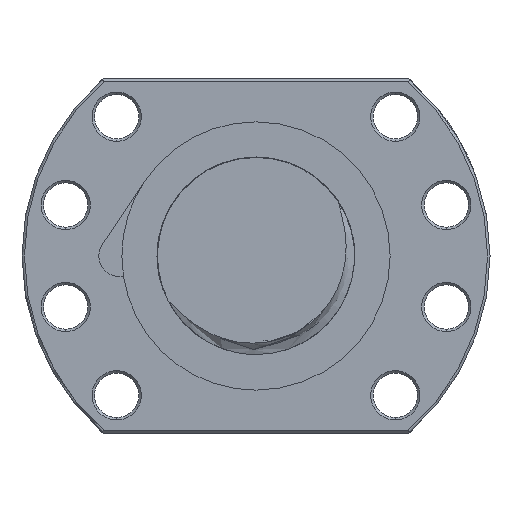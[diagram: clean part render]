
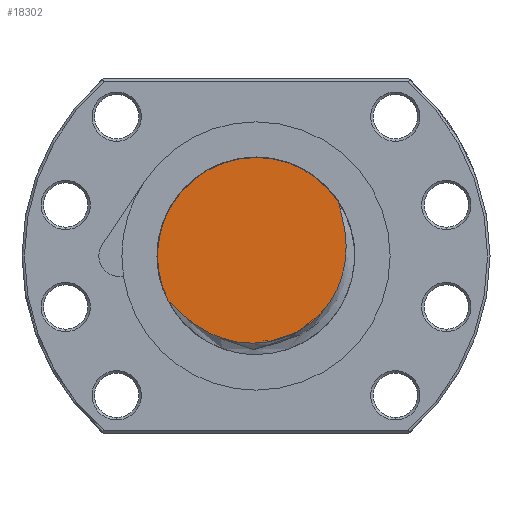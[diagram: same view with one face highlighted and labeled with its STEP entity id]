
A CAD part, left-side view. The second image highlights one B-rep face of the part: STEP entity #18302.
In plain terms, the highlighted planar face has unit normal (-1, 0, 0).
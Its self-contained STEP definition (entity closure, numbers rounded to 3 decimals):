
#1028 = CARTESIAN_POINT ( 'NONE',  ( -148., -16.713, 10.986 ) ) ;
#1029 = DIRECTION ( 'NONE',  ( 0., 1., 0. ) ) ;
#1030 = DIRECTION ( 'NONE',  ( 1., 0., 0. ) ) ;
#1031 = AXIS2_PLACEMENT_3D ( 'NONE', #1037, #1030, #1029 ) ;
#1032 = CIRCLE ( 'NONE', #1031, 20. ) ;
#1037 = CARTESIAN_POINT ( 'NONE',  ( -148., 0., 0. ) ) ;
#2822 = CARTESIAN_POINT ( 'NONE',  ( -148., 0., 20. ) ) ;
#2823 = DIRECTION ( 'NONE',  ( 0., 1., 0. ) ) ;
#2824 = DIRECTION ( 'NONE',  ( 1., 0., 0. ) ) ;
#2825 = CARTESIAN_POINT ( 'NONE',  ( -148., 0., 0. ) ) ;
#2826 = AXIS2_PLACEMENT_3D ( 'NONE', #2825, #2824, #2823 ) ;
#2827 = CIRCLE ( 'NONE', #2826, 20. ) ;
#2828 = CARTESIAN_POINT ( 'NONE',  ( -148., 17.872, -8.977 ) ) ;
#17496 = VERTEX_POINT ( 'NONE', #2828 ) ;
#17498 = EDGE_CURVE ( 'NONE', #17496, #17499, #2827, .T. ) ;
#17499 = VERTEX_POINT ( 'NONE', #2822 ) ;
#18302 = ADVANCED_FACE ( 'NONE', ( #23934 ), #23932, .F. ) ;
#18303 = EDGE_LOOP ( 'NONE', ( #18304, #18305, #18307 ) ) ;
#18304 = ORIENTED_EDGE ( 'NONE', *, *, #17498, .F. ) ;
#18305 = ORIENTED_EDGE ( 'NONE', *, *, #18306, .T. ) ;
#18306 = EDGE_CURVE ( 'NONE', #17496, #18350, #23922, .T. ) ;
#18307 = ORIENTED_EDGE ( 'NONE', *, *, #18349, .F. ) ;
#18349 = EDGE_CURVE ( 'NONE', #17499, #18350, #1032, .T. ) ;
#18350 = VERTEX_POINT ( 'NONE', #1028 ) ;
#23853 = CARTESIAN_POINT ( 'NONE',  ( -148., -16.713, 10.986 ) ) ;
#23854 = CARTESIAN_POINT ( 'NONE',  ( -148., -16.769, 10.679 ) ) ;
#23855 = CARTESIAN_POINT ( 'NONE',  ( -148., -16.845, 10.377 ) ) ;
#23856 = CARTESIAN_POINT ( 'NONE',  ( -148., -17.003, 9.774 ) ) ;
#23857 = CARTESIAN_POINT ( 'NONE',  ( -148., -17.085, 9.473 ) ) ;
#23858 = CARTESIAN_POINT ( 'NONE',  ( -148., -17.328, 8.57 ) ) ;
#23859 = CARTESIAN_POINT ( 'NONE',  ( -148., -17.485, 7.967 ) ) ;
#23860 = CARTESIAN_POINT ( 'NONE',  ( -148., -17.902, 6.148 ) ) ;
#23861 = CARTESIAN_POINT ( 'NONE',  ( -148., -18.11, 4.921 ) ) ;
#23862 = CARTESIAN_POINT ( 'NONE',  ( -148., -18.324, 2.434 ) ) ;
#23863 = CARTESIAN_POINT ( 'NONE',  ( -148., -18.329, 1.197 ) ) ;
#23864 = CARTESIAN_POINT ( 'NONE',  ( -148., -18.171, -0.649 ) ) ;
#23865 = CARTESIAN_POINT ( 'NONE',  ( -148., -18.09, -1.263 ) ) ;
#23866 = CARTESIAN_POINT ( 'NONE',  ( -148., -17.872, -2.486 ) ) ;
#23878 = CARTESIAN_POINT ( 'NONE',  ( -148., -17.733, -3.098 ) ) ;
#23879 = CARTESIAN_POINT ( 'NONE',  ( -148., -17.238, -4.894 ) ) ;
#23880 = CARTESIAN_POINT ( 'NONE',  ( -148., -16.802, -6.049 ) ) ;
#23881 = CARTESIAN_POINT ( 'NONE',  ( -148., -15.981, -7.714 ) ) ;
#23882 = CARTESIAN_POINT ( 'NONE',  ( -148., -15.678, -8.258 ) ) ;
#23883 = CARTESIAN_POINT ( 'NONE',  ( -148., -15.018, -9.319 ) ) ;
#23884 = CARTESIAN_POINT ( 'NONE',  ( -148., -14.665, -9.83 ) ) ;
#23885 = CARTESIAN_POINT ( 'NONE',  ( -148., -13.536, -11.301 ) ) ;
#23886 = CARTESIAN_POINT ( 'NONE',  ( -148., -12.694, -12.205 ) ) ;
#23887 = CARTESIAN_POINT ( 'NONE',  ( -148., -11.291, -13.439 ) ) ;
#23888 = CARTESIAN_POINT ( 'NONE',  ( -148., -10.8, -13.829 ) ) ;
#23889 = CARTESIAN_POINT ( 'NONE',  ( -148., -9.792, -14.55 ) ) ;
#23890 = CARTESIAN_POINT ( 'NONE',  ( -148., -9.272, -14.883 ) ) ;
#23891 = CARTESIAN_POINT ( 'NONE',  ( -148., -8.202, -15.497 ) ) ;
#23892 = CARTESIAN_POINT ( 'NONE',  ( -148., -7.653, -15.778 ) ) ;
#23893 = CARTESIAN_POINT ( 'NONE',  ( -148., -6.806, -16.159 ) ) ;
#23894 = CARTESIAN_POINT ( 'NONE',  ( -148., -6.519, -16.28 ) ) ;
#23895 = CARTESIAN_POINT ( 'NONE',  ( -148., -5.939, -16.508 ) ) ;
#23896 = CARTESIAN_POINT ( 'NONE',  ( -148., -5.645, -16.615 ) ) ;
#23897 = CARTESIAN_POINT ( 'NONE',  ( -148., -4.169, -17.111 ) ) ;
#23898 = CARTESIAN_POINT ( 'NONE',  ( -148., -2.966, -17.387 ) ) ;
#23899 = CARTESIAN_POINT ( 'NONE',  ( -148., -1.132, -17.62 ) ) ;
#23900 = CARTESIAN_POINT ( 'NONE',  ( -148., -0.515, -17.668 ) ) ;
#23901 = CARTESIAN_POINT ( 'NONE',  ( -148., 0.729, -17.705 ) ) ;
#23902 = CARTESIAN_POINT ( 'NONE',  ( -148., 1.356, -17.692 ) ) ;
#23903 = CARTESIAN_POINT ( 'NONE',  ( -148., 3.209, -17.568 ) ) ;
#23904 = CARTESIAN_POINT ( 'NONE',  ( -148., 4.422, -17.37 ) ) ;
#23905 = CARTESIAN_POINT ( 'NONE',  ( -148., 6.208, -16.902 ) ) ;
#23906 = CARTESIAN_POINT ( 'NONE',  ( -148., 6.797, -16.717 ) ) ;
#23907 = CARTESIAN_POINT ( 'NONE',  ( -148., 7.966, -16.291 ) ) ;
#23908 = CARTESIAN_POINT ( 'NONE',  ( -148., 8.544, -16.05 ) ) ;
#23909 = CARTESIAN_POINT ( 'NONE',  ( -148., 10.227, -15.258 ) ) ;
#23910 = CARTESIAN_POINT ( 'NONE',  ( -148., 11.291, -14.637 ) ) ;
#23911 = CARTESIAN_POINT ( 'NONE',  ( -148., 12.811, -13.579 ) ) ;
#23912 = CARTESIAN_POINT ( 'NONE',  ( -148., 13.304, -13.205 ) ) ;
#23913 = CARTESIAN_POINT ( 'NONE',  ( -148., 14.267, -12.417 ) ) ;
#23914 = CARTESIAN_POINT ( 'NONE',  ( -148., 14.736, -12.004 ) ) ;
#23915 = CARTESIAN_POINT ( 'NONE',  ( -148., 15.646, -11.154 ) ) ;
#23916 = CARTESIAN_POINT ( 'NONE',  ( -148., 16.089, -10.715 ) ) ;
#23917 = CARTESIAN_POINT ( 'NONE',  ( -148., 16.749, -10.053 ) ) ;
#23918 = CARTESIAN_POINT ( 'NONE',  ( -148., 16.968, -9.832 ) ) ;
#23919 = CARTESIAN_POINT ( 'NONE',  ( -148., 17.412, -9.395 ) ) ;
#23920 = CARTESIAN_POINT ( 'NONE',  ( -148., 17.636, -9.178 ) ) ;
#23921 = CARTESIAN_POINT ( 'NONE',  ( -148., 17.872, -8.977 ) ) ;
#23922 = B_SPLINE_CURVE_WITH_KNOTS ( 'NONE', 3,
 ( #23921, #23920, #23919, #23918, #23917, #23916, #23915, #23914, #23913, #23912, #23911, #23910, #23909, #23908, #23907, #23906, #23905, #23904, #23903, #23902, #23901, #23900, #23899, #23898, #23897, #23896, #23895, #23894, #23893, #23892, #23891, #23890, #23889, #23888, #23887, #23886, #23885, #23884, #23883, #23882, #23881, #23880, #23879, #23878, #23866, #23865, #23864, #23863, #23862, #23861, #23860, #23859, #23858, #23857, #23856, #23855, #23854, #23853 ),
 .UNSPECIFIED., .F., .F.,
 ( 4, 2, 2, 2, 2, 2, 2, 2, 2, 2, 2, 2, 2, 2, 2, 2, 2, 2, 2, 2, 2, 2, 2, 2, 2, 2, 2, 2, 4 ),
 ( 0.016, 0.017, 0.018, 0.019, 0.021, 0.023, 0.027, 0.029, 0.03, 0.034, 0.036, 0.038, 0.042, 0.042, 0.043, 0.045, 0.047, 0.049, 0.053, 0.054, 0.056, 0.06, 0.062, 0.064, 0.067, 0.071, 0.073, 0.074, 0.075 ),
 .UNSPECIFIED. ) ;
#23924 = DIRECTION ( 'NONE',  ( 0., 0., -1. ) ) ;
#23925 = DIRECTION ( 'NONE',  ( 1., 0., 0. ) ) ;
#23926 = CARTESIAN_POINT ( 'NONE',  ( -148., 0., 0. ) ) ;
#23927 = AXIS2_PLACEMENT_3D ( 'NONE', #23926, #23925, #23924 ) ;
#23932 = PLANE ( 'NONE',  #23927 ) ;
#23934 = FACE_OUTER_BOUND ( 'NONE', #18303, .T. ) ;
